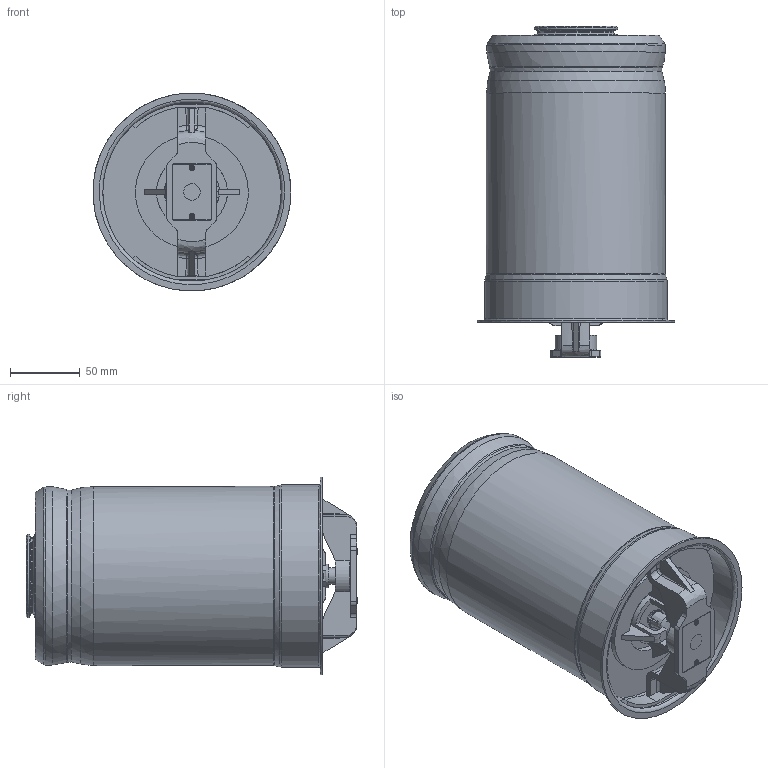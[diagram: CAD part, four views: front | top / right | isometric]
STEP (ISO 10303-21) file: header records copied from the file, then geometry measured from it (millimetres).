
FILE_DESCRIPTION((''),'2;1');
FILE_NAME('U:\Users\i.maeder\30709100(340390)_E440.stp', '2014-06-18T13:36:28',('User'),('SDRC'),'I-DEAS Master Series 9','UNIX', 'Yes');
FILE_SCHEMA(('AUTOMOTIVE_DESIGN { 1 0 10303 214 1 1 1 1 }'));
Length unit declared in the file: millimetre
Products named in the file (1): 30709100(340390)
Bounding box: 141.85 x 237.9 x 141.91 mm (x, y, z)
Volume: 2496875.5 mm3; surface area: 150106.3 mm2
Topology: 1 solids, 2 shells, 315 faces, 852 edges, 592 vertices
Faces by surface type: bspline 315
Entity records: 11449 total; most frequent: CARTESIAN_POINT 6709, ORIENTED_EDGE 1628, EDGE_CURVE 814, VERTEX_POINT 518, B_SPLINE_CURVE_WITH_KNOTS 364, EDGE_LOOP 344, FACE_OUTER_BOUND 315, ADVANCED_FACE 315
